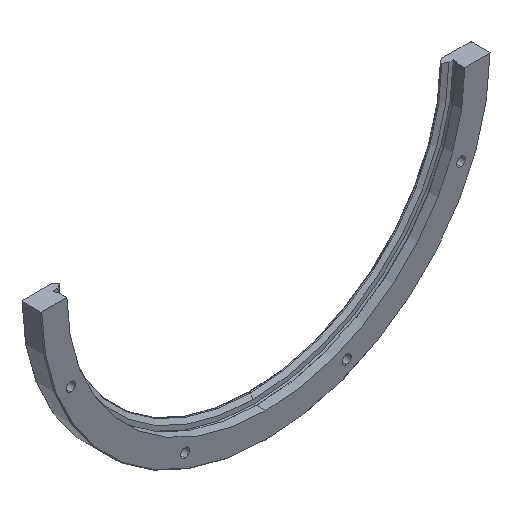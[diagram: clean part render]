
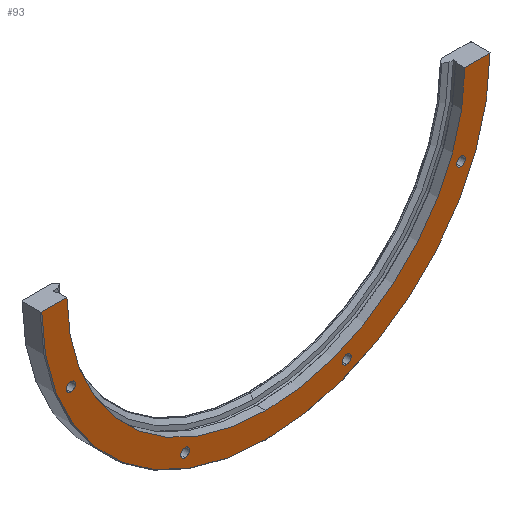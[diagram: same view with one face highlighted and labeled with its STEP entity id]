
A CAD part, isometric view. The second image highlights one B-rep face of the part: STEP entity #93.
In plain terms, the highlighted planar face has unit normal (0, -1, 0).
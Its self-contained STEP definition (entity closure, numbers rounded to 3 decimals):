
#93=ADVANCED_FACE('',(#156,#157,#158,#159,#160),#161,.T.);
#156=FACE_OUTER_BOUND('',#256,.T.);
#157=FACE_BOUND('',#257,.T.);
#158=FACE_BOUND('',#258,.T.);
#159=FACE_BOUND('',#259,.T.);
#160=FACE_BOUND('',#260,.T.);
#161=PLANE('',#261);
#256=EDGE_LOOP('',(#446,#447,#448,#449,#450,#451));
#257=EDGE_LOOP('',(#452,#453));
#258=EDGE_LOOP('',(#454,#455));
#259=EDGE_LOOP('',(#456,#457));
#260=EDGE_LOOP('',(#458,#459));
#261=AXIS2_PLACEMENT_3D('',#460,#461,#462);
#446=ORIENTED_EDGE('',*,*,#737,.F.);
#447=ORIENTED_EDGE('',*,*,#689,.T.);
#448=ORIENTED_EDGE('',*,*,#738,.T.);
#449=ORIENTED_EDGE('',*,*,#739,.F.);
#450=ORIENTED_EDGE('',*,*,#740,.F.);
#451=ORIENTED_EDGE('',*,*,#673,.F.);
#452=ORIENTED_EDGE('',*,*,#741,.T.);
#453=ORIENTED_EDGE('',*,*,#702,.T.);
#454=ORIENTED_EDGE('',*,*,#742,.T.);
#455=ORIENTED_EDGE('',*,*,#710,.T.);
#456=ORIENTED_EDGE('',*,*,#743,.T.);
#457=ORIENTED_EDGE('',*,*,#726,.T.);
#458=ORIENTED_EDGE('',*,*,#744,.T.);
#459=ORIENTED_EDGE('',*,*,#718,.T.);
#460=CARTESIAN_POINT('',(-138.5,-9.825,0.0));
#461=DIRECTION('',(0.0,-1.0,0.0));
#462=DIRECTION('',(0.0,0.0,-1.0));
#673=EDGE_CURVE('',#784,#780,#786,.T.);
#689=EDGE_CURVE('',#816,#813,#817,.T.);
#702=EDGE_CURVE('',#839,#840,#841,.T.);
#710=EDGE_CURVE('',#855,#856,#857,.T.);
#718=EDGE_CURVE('',#871,#872,#873,.T.);
#726=EDGE_CURVE('',#887,#888,#889,.T.);
#737=EDGE_CURVE('',#816,#784,#907,.T.);
#738=EDGE_CURVE('',#813,#908,#909,.T.);
#739=EDGE_CURVE('',#910,#908,#911,.T.);
#740=EDGE_CURVE('',#780,#910,#912,.T.);
#741=EDGE_CURVE('',#840,#839,#913,.T.);
#742=EDGE_CURVE('',#856,#855,#914,.T.);
#743=EDGE_CURVE('',#888,#887,#915,.T.);
#744=EDGE_CURVE('',#872,#871,#916,.T.);
#780=VERTEX_POINT('',#960);
#784=VERTEX_POINT('',#965);
#786=CIRCLE('',#970,138.5);
#813=VERTEX_POINT('',#1010);
#816=VERTEX_POINT('',#1014);
#817=CIRCLE('',#1015,123.0);
#839=VERTEX_POINT('',#1050);
#840=VERTEX_POINT('',#1051);
#841=CIRCLE('',#1052,2.75);
#855=VERTEX_POINT('',#1070);
#856=VERTEX_POINT('',#1071);
#857=CIRCLE('',#1072,2.75);
#871=VERTEX_POINT('',#1090);
#872=VERTEX_POINT('',#1091);
#873=CIRCLE('',#1092,2.75);
#887=VERTEX_POINT('',#1110);
#888=VERTEX_POINT('',#1111);
#889=CIRCLE('',#1112,2.75);
#907=LINE('',#1140,#1141);
#908=VERTEX_POINT('',#1142);
#909=CIRCLE('',#1143,123.0);
#910=VERTEX_POINT('',#1144);
#911=LINE('',#1145,#1146);
#912=CIRCLE('',#1147,138.5);
#913=CIRCLE('',#1148,2.75);
#914=CIRCLE('',#1149,2.75);
#915=CIRCLE('',#1150,2.75);
#916=CIRCLE('',#1151,2.75);
#960=CARTESIAN_POINT('',(0.,-9.825,-138.5));
#965=CARTESIAN_POINT('',(138.496,-9.825,-1.0));
#970=AXIS2_PLACEMENT_3D('',#1224,#1225,#1226);
#1010=CARTESIAN_POINT('',(0.,-9.825,-123.0));
#1014=CARTESIAN_POINT('',(122.996,-9.825,-1.0));
#1015=AXIS2_PLACEMENT_3D('',#1254,#1255,#1256);
#1050=CARTESIAN_POINT('',(120.566,-9.825,-52.69));
#1051=CARTESIAN_POINT('',(120.566,-9.825,-47.19));
#1052=AXIS2_PLACEMENT_3D('',#1281,#1282,#1283);
#1070=CARTESIAN_POINT('',(49.94,-9.825,-123.316));
#1071=CARTESIAN_POINT('',(49.94,-9.825,-117.816));
#1072=AXIS2_PLACEMENT_3D('',#1297,#1298,#1299);
#1090=CARTESIAN_POINT('',(-49.94,-9.825,-123.316));
#1091=CARTESIAN_POINT('',(-49.94,-9.825,-117.816));
#1092=AXIS2_PLACEMENT_3D('',#1313,#1314,#1315);
#1110=CARTESIAN_POINT('',(-120.566,-9.825,-52.69));
#1111=CARTESIAN_POINT('',(-120.566,-9.825,-47.19));
#1112=AXIS2_PLACEMENT_3D('',#1329,#1330,#1331);
#1140=CARTESIAN_POINT('',(29.983,-9.825,-1.0));
#1141=VECTOR('',#1348,1000.0);
#1142=CARTESIAN_POINT('',(-122.996,-9.825,-1.0));
#1143=AXIS2_PLACEMENT_3D('',#1349,#1350,#1351);
#1144=CARTESIAN_POINT('',(-138.496,-9.825,-1.0));
#1145=CARTESIAN_POINT('',(-999.999,-9.825,-1.0));
#1146=VECTOR('',#1352,1000.0);
#1147=AXIS2_PLACEMENT_3D('',#1353,#1354,#1355);
#1148=AXIS2_PLACEMENT_3D('',#1356,#1357,#1358);
#1149=AXIS2_PLACEMENT_3D('',#1359,#1360,#1361);
#1150=AXIS2_PLACEMENT_3D('',#1362,#1363,#1364);
#1151=AXIS2_PLACEMENT_3D('',#1365,#1366,#1367);
#1224=CARTESIAN_POINT('',(0.0,-9.825,0.0));
#1225=DIRECTION('',(-0.0,1.0,0.0));
#1226=DIRECTION('',(0.0,0.0,1.0));
#1254=CARTESIAN_POINT('',(0.0,-9.825,0.0));
#1255=DIRECTION('',(-0.0,1.0,0.0));
#1256=DIRECTION('',(0.0,0.0,1.0));
#1281=CARTESIAN_POINT('',(120.566,-9.825,-49.94));
#1282=DIRECTION('',(-0.0,1.0,0.0));
#1283=DIRECTION('',(0.0,0.0,1.0));
#1297=CARTESIAN_POINT('',(49.94,-9.825,-120.566));
#1298=DIRECTION('',(-0.0,1.0,0.0));
#1299=DIRECTION('',(0.0,0.0,1.0));
#1313=CARTESIAN_POINT('',(-49.94,-9.825,-120.566));
#1314=DIRECTION('',(-0.0,1.0,0.0));
#1315=DIRECTION('',(0.0,0.0,1.0));
#1329=CARTESIAN_POINT('',(-120.566,-9.825,-49.94));
#1330=DIRECTION('',(-0.0,1.0,0.0));
#1331=DIRECTION('',(0.0,0.0,1.0));
#1348=DIRECTION('',(1.0,0.0,0.0));
#1349=CARTESIAN_POINT('',(0.0,-9.825,0.0));
#1350=DIRECTION('',(-0.0,1.0,0.0));
#1351=DIRECTION('',(0.0,0.0,1.0));
#1352=DIRECTION('',(1.0,0.0,0.0));
#1353=CARTESIAN_POINT('',(0.0,-9.825,0.0));
#1354=DIRECTION('',(-0.0,1.0,0.0));
#1355=DIRECTION('',(0.0,0.0,1.0));
#1356=CARTESIAN_POINT('',(120.566,-9.825,-49.94));
#1357=DIRECTION('',(-0.0,1.0,0.0));
#1358=DIRECTION('',(0.0,0.0,1.0));
#1359=CARTESIAN_POINT('',(49.94,-9.825,-120.566));
#1360=DIRECTION('',(-0.0,1.0,0.0));
#1361=DIRECTION('',(0.0,0.0,1.0));
#1362=CARTESIAN_POINT('',(-120.566,-9.825,-49.94));
#1363=DIRECTION('',(-0.0,1.0,0.0));
#1364=DIRECTION('',(0.0,0.0,1.0));
#1365=CARTESIAN_POINT('',(-49.94,-9.825,-120.566));
#1366=DIRECTION('',(-0.0,1.0,0.0));
#1367=DIRECTION('',(0.0,0.0,1.0));
